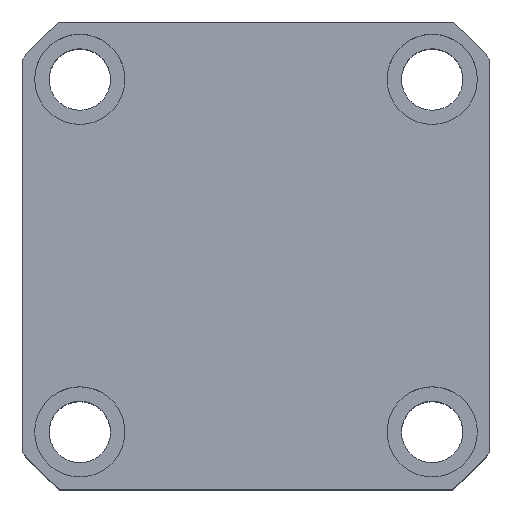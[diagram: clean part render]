
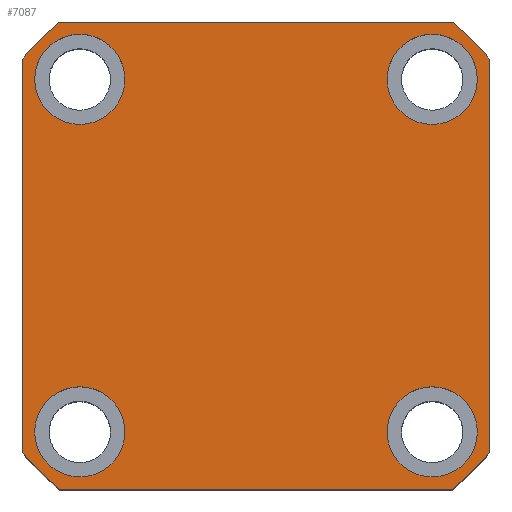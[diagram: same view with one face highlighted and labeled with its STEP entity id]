
A CAD part, top view. The second image highlights one B-rep face of the part: STEP entity #7087.
In plain terms, the highlighted planar face has unit normal (0, 0, 1) as drawn and (0, 0, -1) by its records, which use the part's own axes.
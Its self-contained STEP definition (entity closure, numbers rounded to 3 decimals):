
#179 = VECTOR ( 'NONE', #11118, 1000. ) ;
#309 = DIRECTION ( 'NONE',  ( -1., 0., 0. ) ) ;
#449 = EDGE_CURVE ( 'NONE', #1729, #4239, #2853, .T. ) ;
#499 = VERTEX_POINT ( 'NONE', #13743 ) ;
#539 = ORIENTED_EDGE ( 'NONE', *, *, #449, .F. ) ;
#606 = VERTEX_POINT ( 'NONE', #11734 ) ;
#771 = CIRCLE ( 'NONE', #10761, 11. ) ;
#774 = CARTESIAN_POINT ( 'NONE',  ( 32., -43., 0. ) ) ;
#881 = CARTESIAN_POINT ( 'NONE',  ( 0., 0., 0. ) ) ;
#1129 = CARTESIAN_POINT ( 'NONE',  ( 43., 43., 0. ) ) ;
#1133 = CIRCLE ( 'NONE', #6807, 11. ) ;
#1280 = ORIENTED_EDGE ( 'NONE', *, *, #7565, .F. ) ;
#1400 = CARTESIAN_POINT ( 'NONE',  ( 57., 57., 0. ) ) ;
#1729 = VERTEX_POINT ( 'NONE', #5570 ) ;
#1894 = EDGE_CURVE ( 'NONE', #13329, #606, #3377, .T. ) ;
#1998 = DIRECTION ( 'NONE',  ( 0., 0., 1. ) ) ;
#2026 = VERTEX_POINT ( 'NONE', #9862 ) ;
#2056 = FACE_BOUND ( 'NONE', #9924, .T. ) ;
#2065 = DIRECTION ( 'NONE',  ( 1., 0., 0. ) ) ;
#2194 = EDGE_CURVE ( 'NONE', #8907, #499, #3008, .T. ) ;
#2228 = CARTESIAN_POINT ( 'NONE',  ( 47.971, -57., 0. ) ) ;
#2311 = DIRECTION ( 'NONE',  ( -1., 0., 0. ) ) ;
#2561 = CARTESIAN_POINT ( 'NONE',  ( -32., 43., 0. ) ) ;
#2677 = VERTEX_POINT ( 'NONE', #13228 ) ;
#2732 = ORIENTED_EDGE ( 'NONE', *, *, #12282, .F. ) ;
#2766 = CARTESIAN_POINT ( 'NONE',  ( -43., -43., 0. ) ) ;
#2801 = CARTESIAN_POINT ( 'NONE',  ( -43., 43., 0. ) ) ;
#2853 = CIRCLE ( 'NONE', #13336, 11. ) ;
#2949 = ORIENTED_EDGE ( 'NONE', *, *, #5153, .F. ) ;
#2958 = AXIS2_PLACEMENT_3D ( 'NONE', #2801, #11038, #3977 ) ;
#2994 = ORIENTED_EDGE ( 'NONE', *, *, #12940, .F. ) ;
#3008 = CIRCLE ( 'NONE', #4479, 11. ) ;
#3171 = DIRECTION ( 'NONE',  ( 1., 0., 0. ) ) ;
#3196 = VERTEX_POINT ( 'NONE', #2561 ) ;
#3225 = DIRECTION ( 'NONE',  ( 0., 0., 1. ) ) ;
#3273 = CARTESIAN_POINT ( 'NONE',  ( 0., 0., 0. ) ) ;
#3320 = VERTEX_POINT ( 'NONE', #4909 ) ;
#3337 = CARTESIAN_POINT ( 'NONE',  ( 0., 0., 0. ) ) ;
#3351 = ORIENTED_EDGE ( 'NONE', *, *, #2194, .F. ) ;
#3368 = AXIS2_PLACEMENT_3D ( 'NONE', #3337, #4494, #12762 ) ;
#3377 = CIRCLE ( 'NONE', #11911, 74.5 ) ;
#3681 = LINE ( 'NONE', #4047, #179 ) ;
#3696 = VECTOR ( 'NONE', #13883, 1000. ) ;
#3869 = VECTOR ( 'NONE', #8485, 1000. ) ;
#3955 = DIRECTION ( 'NONE',  ( -1., 0., 0. ) ) ;
#3977 = DIRECTION ( 'NONE',  ( -1., 0., 0. ) ) ;
#4047 = CARTESIAN_POINT ( 'NONE',  ( -57., -57., 0. ) ) ;
#4169 = CARTESIAN_POINT ( 'NONE',  ( 43., -43., 0. ) ) ;
#4239 = VERTEX_POINT ( 'NONE', #14759 ) ;
#4255 = CIRCLE ( 'NONE', #13350, 74.5 ) ;
#4479 = AXIS2_PLACEMENT_3D ( 'NONE', #13445, #13398, #13348 ) ;
#4494 = DIRECTION ( 'NONE',  ( 0., 0., 1. ) ) ;
#4764 = ORIENTED_EDGE ( 'NONE', *, *, #5353, .F. ) ;
#4909 = CARTESIAN_POINT ( 'NONE',  ( -47.971, -57., 0. ) ) ;
#5024 = VERTEX_POINT ( 'NONE', #9759 ) ;
#5034 = CIRCLE ( 'NONE', #10851, 11. ) ;
#5153 = EDGE_CURVE ( 'NONE', #10932, #3196, #6148, .T. ) ;
#5197 = FACE_BOUND ( 'NONE', #13437, .T. ) ;
#5252 = DIRECTION ( 'NONE',  ( 0., 0., 1. ) ) ;
#5353 = EDGE_CURVE ( 'NONE', #499, #8907, #5034, .T. ) ;
#5356 = DIRECTION ( 'NONE',  ( -1., 0., 0. ) ) ;
#5570 = CARTESIAN_POINT ( 'NONE',  ( 54., 43., 0. ) ) ;
#5650 = CARTESIAN_POINT ( 'NONE',  ( -57., 57., 0. ) ) ;
#5657 = PLANE ( 'NONE',  #3368 ) ;
#5745 = CIRCLE ( 'NONE', #15190, 11. ) ;
#5886 = ORIENTED_EDGE ( 'NONE', *, *, #6578, .F. ) ;
#5906 = CIRCLE ( 'NONE', #9943, 11. ) ;
#6148 = CIRCLE ( 'NONE', #2958, 11. ) ;
#6578 = EDGE_CURVE ( 'NONE', #3196, #10932, #1133, .T. ) ;
#6638 = CARTESIAN_POINT ( 'NONE',  ( -54., -43., 0. ) ) ;
#6647 = EDGE_CURVE ( 'NONE', #4239, #1729, #771, .T. ) ;
#6697 = CARTESIAN_POINT ( 'NONE',  ( -57., -47.971, 0. ) ) ;
#6807 = AXIS2_PLACEMENT_3D ( 'NONE', #6955, #15189, #8154 ) ;
#6839 = VERTEX_POINT ( 'NONE', #10718 ) ;
#6955 = CARTESIAN_POINT ( 'NONE',  ( -43., 43., 0. ) ) ;
#7087 = ADVANCED_FACE ( 'NONE', ( #11847, #11476, #5197, #2056, #14227 ), #5657, .F. ) ;
#7380 = DIRECTION ( 'NONE',  ( 0., 0., -1. ) ) ;
#7565 = EDGE_CURVE ( 'NONE', #2677, #12677, #5745, .T. ) ;
#7939 = EDGE_CURVE ( 'NONE', #9049, #3320, #4255, .T. ) ;
#8154 = DIRECTION ( 'NONE',  ( -1., 0., 0. ) ) ;
#8485 = DIRECTION ( 'NONE',  ( 0., 1., 0. ) ) ;
#8527 = EDGE_LOOP ( 'NONE', ( #3351, #4764 ) ) ;
#8679 = ORIENTED_EDGE ( 'NONE', *, *, #11974, .F. ) ;
#8719 = ORIENTED_EDGE ( 'NONE', *, *, #6647, .F. ) ;
#8867 = LINE ( 'NONE', #11096, #14390 ) ;
#8907 = VERTEX_POINT ( 'NONE', #774 ) ;
#9049 = VERTEX_POINT ( 'NONE', #6697 ) ;
#9082 = CARTESIAN_POINT ( 'NONE',  ( 0., 0., 0. ) ) ;
#9140 = DIRECTION ( 'NONE',  ( 0., 0., 1. ) ) ;
#9379 = DIRECTION ( 'NONE',  ( 0., 0., -1. ) ) ;
#9759 = CARTESIAN_POINT ( 'NONE',  ( 47.971, 57., 0. ) ) ;
#9839 = CARTESIAN_POINT ( 'NONE',  ( -54., 43., 0. ) ) ;
#9862 = CARTESIAN_POINT ( 'NONE',  ( -57., 47.971, 0. ) ) ;
#9924 = EDGE_LOOP ( 'NONE', ( #2949, #5886 ) ) ;
#9943 = AXIS2_PLACEMENT_3D ( 'NONE', #14431, #7380, #309 ) ;
#9955 = ORIENTED_EDGE ( 'NONE', *, *, #11708, .F. ) ;
#9981 = LINE ( 'NONE', #5650, #3696 ) ;
#10149 = CIRCLE ( 'NONE', #14950, 74.5 ) ;
#10258 = DIRECTION ( 'NONE',  ( 1., 0., 0. ) ) ;
#10292 = EDGE_LOOP ( 'NONE', ( #8679, #12530, #14563, #2994, #12583, #14763, #13451, #9955 ) ) ;
#10494 = LINE ( 'NONE', #1400, #3869 ) ;
#10718 = CARTESIAN_POINT ( 'NONE',  ( 57., 47.971, 0. ) ) ;
#10761 = AXIS2_PLACEMENT_3D ( 'NONE', #1129, #9379, #2311 ) ;
#10851 = AXIS2_PLACEMENT_3D ( 'NONE', #4169, #12427, #5356 ) ;
#10932 = VERTEX_POINT ( 'NONE', #9839 ) ;
#11005 = DIRECTION ( 'NONE',  ( 0., 0., -1. ) ) ;
#11038 = DIRECTION ( 'NONE',  ( 0., 0., -1. ) ) ;
#11096 = CARTESIAN_POINT ( 'NONE',  ( -57., 57., 0. ) ) ;
#11118 = DIRECTION ( 'NONE',  ( 1., 0., 0. ) ) ;
#11199 = DIRECTION ( 'NONE',  ( -1., 0., 0. ) ) ;
#11325 = EDGE_CURVE ( 'NONE', #2026, #9049, #9981, .T. ) ;
#11476 = FACE_BOUND ( 'NONE', #8527, .T. ) ;
#11708 = EDGE_CURVE ( 'NONE', #5024, #14886, #8867, .T. ) ;
#11734 = CARTESIAN_POINT ( 'NONE',  ( 57., -47.971, 0. ) ) ;
#11847 = FACE_BOUND ( 'NONE', #12594, .T. ) ;
#11911 = AXIS2_PLACEMENT_3D ( 'NONE', #3273, #3225, #3171 ) ;
#11974 = EDGE_CURVE ( 'NONE', #6839, #5024, #10149, .T. ) ;
#12186 = CIRCLE ( 'NONE', #14672, 74.5 ) ;
#12282 = EDGE_CURVE ( 'NONE', #12677, #2677, #5906, .T. ) ;
#12318 = CARTESIAN_POINT ( 'NONE',  ( 0., 0., 0. ) ) ;
#12379 = EDGE_CURVE ( 'NONE', #14886, #2026, #12186, .T. ) ;
#12427 = DIRECTION ( 'NONE',  ( 0., 0., -1. ) ) ;
#12530 = ORIENTED_EDGE ( 'NONE', *, *, #13467, .F. ) ;
#12583 = ORIENTED_EDGE ( 'NONE', *, *, #7939, .F. ) ;
#12594 = EDGE_LOOP ( 'NONE', ( #2732, #1280 ) ) ;
#12677 = VERTEX_POINT ( 'NONE', #6638 ) ;
#12762 = DIRECTION ( 'NONE',  ( 1., 0., 0. ) ) ;
#12940 = EDGE_CURVE ( 'NONE', #3320, #13329, #3681, .T. ) ;
#13228 = CARTESIAN_POINT ( 'NONE',  ( -32., -43., 0. ) ) ;
#13329 = VERTEX_POINT ( 'NONE', #2228 ) ;
#13336 = AXIS2_PLACEMENT_3D ( 'NONE', #13638, #13619, #13592 ) ;
#13348 = DIRECTION ( 'NONE',  ( -1., 0., 0. ) ) ;
#13350 = AXIS2_PLACEMENT_3D ( 'NONE', #9082, #1998, #10258 ) ;
#13358 = CARTESIAN_POINT ( 'NONE',  ( -47.971, 57., 0. ) ) ;
#13398 = DIRECTION ( 'NONE',  ( 0., 0., -1. ) ) ;
#13437 = EDGE_LOOP ( 'NONE', ( #8719, #539 ) ) ;
#13445 = CARTESIAN_POINT ( 'NONE',  ( 43., -43., 0. ) ) ;
#13451 = ORIENTED_EDGE ( 'NONE', *, *, #12379, .F. ) ;
#13467 = EDGE_CURVE ( 'NONE', #606, #6839, #10494, .T. ) ;
#13500 = DIRECTION ( 'NONE',  ( 1., 0., 0. ) ) ;
#13592 = DIRECTION ( 'NONE',  ( -1., 0., 0. ) ) ;
#13619 = DIRECTION ( 'NONE',  ( 0., 0., -1. ) ) ;
#13638 = CARTESIAN_POINT ( 'NONE',  ( 43., 43., 0. ) ) ;
#13743 = CARTESIAN_POINT ( 'NONE',  ( 54., -43., 0. ) ) ;
#13883 = DIRECTION ( 'NONE',  ( 0., -1., 0. ) ) ;
#14227 = FACE_OUTER_BOUND ( 'NONE', #10292, .T. ) ;
#14390 = VECTOR ( 'NONE', #11199, 1000. ) ;
#14431 = CARTESIAN_POINT ( 'NONE',  ( -43., -43., 0. ) ) ;
#14563 = ORIENTED_EDGE ( 'NONE', *, *, #1894, .F. ) ;
#14672 = AXIS2_PLACEMENT_3D ( 'NONE', #12318, #5252, #13500 ) ;
#14759 = CARTESIAN_POINT ( 'NONE',  ( 32., 43., 0. ) ) ;
#14763 = ORIENTED_EDGE ( 'NONE', *, *, #11325, .F. ) ;
#14886 = VERTEX_POINT ( 'NONE', #13358 ) ;
#14950 = AXIS2_PLACEMENT_3D ( 'NONE', #881, #9140, #2065 ) ;
#15189 = DIRECTION ( 'NONE',  ( 0., 0., -1. ) ) ;
#15190 = AXIS2_PLACEMENT_3D ( 'NONE', #2766, #11005, #3955 ) ;
